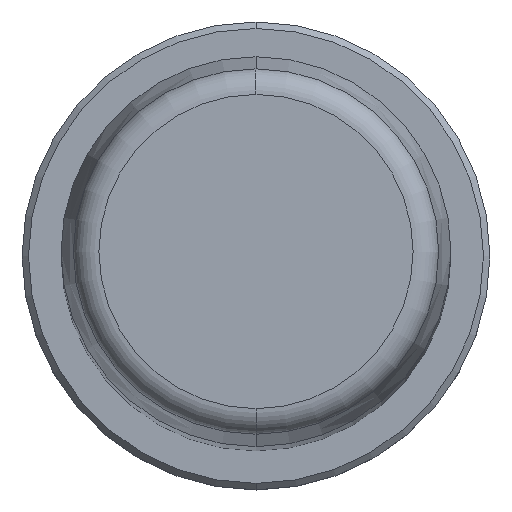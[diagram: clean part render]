
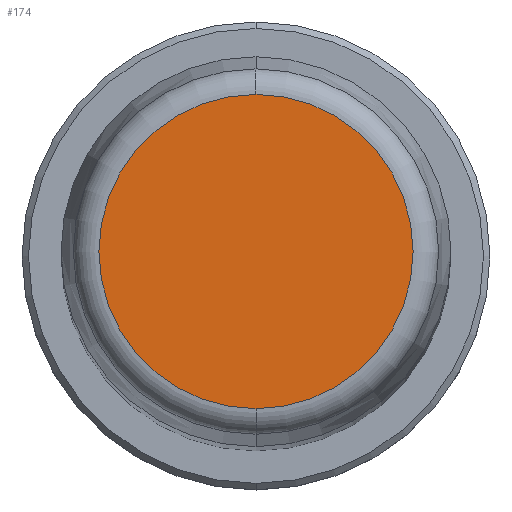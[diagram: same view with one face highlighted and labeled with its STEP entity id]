
A CAD part, top view. The second image highlights one B-rep face of the part: STEP entity #174.
In plain terms, the highlighted planar face has unit normal (0, 0, 1).
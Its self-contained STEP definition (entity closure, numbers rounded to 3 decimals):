
#1=CARTESIAN_POINT('',(0.,0.,200.));
#2=DIRECTION('',(0.,0.,-1.));
#3=DIRECTION('',(0.,-1.,0.));
#4=AXIS2_PLACEMENT_3D('',#1,#2,#3);
#6=CARTESIAN_POINT('',(0.,0.,200.));
#7=DIRECTION('',(0.,0.,-1.));
#8=DIRECTION('',(0.,1.,0.));
#9=AXIS2_PLACEMENT_3D('',#6,#7,#8);
#159=CARTESIAN_POINT('',(0.,-12.088,200.));
#160=CARTESIAN_POINT('',(0.,12.088,200.));
#161=VERTEX_POINT('',#159);
#162=VERTEX_POINT('',#160);
#163=CARTESIAN_POINT('',(0.,0.,200.));
#164=DIRECTION('',(0.,0.,1.));
#165=DIRECTION('',(0.,-1.,0.));
#166=AXIS2_PLACEMENT_3D('',#163,#164,#165);
#167=PLANE('',#166);
#169=ORIENTED_EDGE('',*,*,#168,.T.);
#171=ORIENTED_EDGE('',*,*,#170,.T.);
#172=EDGE_LOOP('',(#169,#171));
#173=FACE_OUTER_BOUND('',#172,.F.);
#174=ADVANCED_FACE('',(#173),#167,.T.);
#5=CIRCLE('',#4,12.088);
#10=CIRCLE('',#9,12.088);
#168=EDGE_CURVE('',#161,#162,#5,.T.);
#170=EDGE_CURVE('',#162,#161,#10,.T.);
